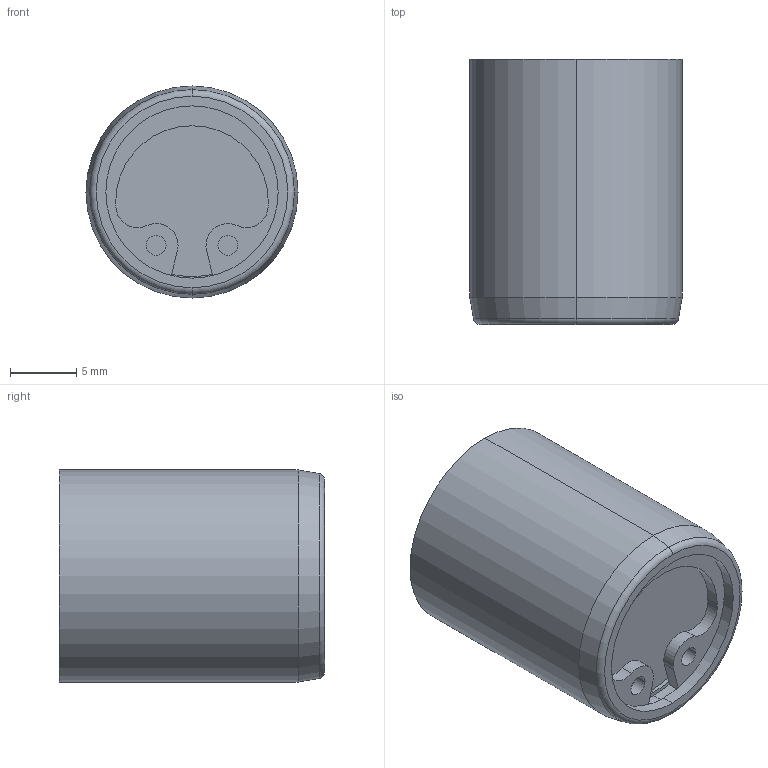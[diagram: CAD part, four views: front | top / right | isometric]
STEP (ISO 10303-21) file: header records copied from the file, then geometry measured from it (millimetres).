
FILE_DESCRIPTION (( 'STEP AP214' ), '1' );
FILE_NAME ('FV161320.STEP', '2013-06-27T09:22:32', ( '' ), ( '' ), 'SwSTEP 2.0', 'SolidWorks 2011', '' );
FILE_SCHEMA (( 'AUTOMOTIVE_DESIGN' ));
Length unit declared in the file: millimetre
Products named in the file (8): FV161320-3; FV161320-2; FV161320-7_Circlip DIN 471 - 5 x 0.6; FV161320; FV161320-1; FV161320-4; FV161320-5; FV161320-6_Circlip DIN 472 - 13 x 1
Assembly tree (7 placements, depth 2):
  FV161320
    FV161320-4
    FV161320-3
    FV161320-5
    FV161320-2
    FV161320-1
    FV161320-7_Circlip DIN 471 - 5 x 0.6
    FV161320-6_Circlip DIN 472 - 13 x 1
Bounding box: 16 x 20 x 16 mm (x, y, z)
Volume: 3289.9 mm3; surface area: 3797 mm2
Topology: 7 solids, 7 shells, 130 faces, 305 edges, 200 vertices
Faces by surface type: cylinder 71, plane 45, cone 8, torus 4, bspline 2
Entity records: 4637 total; most frequent: CARTESIAN_POINT 1115, DIRECTION 743, ORIENTED_EDGE 610, EDGE_CURVE 305, AXIS2_PLACEMENT_3D 304, VERTEX_POINT 200, CIRCLE 166, EDGE_LOOP 149
